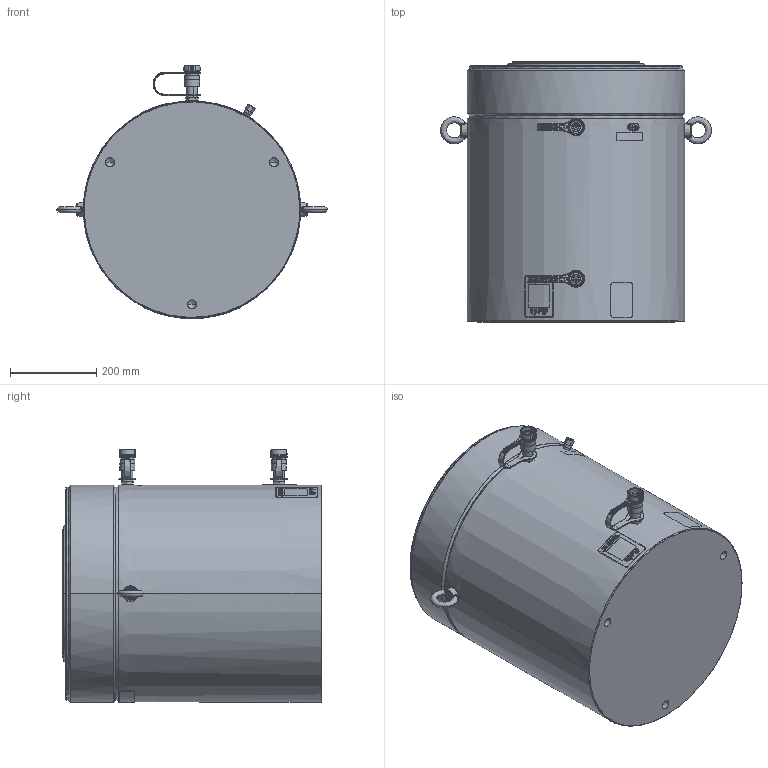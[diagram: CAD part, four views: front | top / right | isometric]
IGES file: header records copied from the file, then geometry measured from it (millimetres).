
Start section:  PTC IGES file: hcr80010.igs
Global section: file name: hcr80010.igs; native system: Creo Parametric by PTC Inc.; preprocessor: 2015290; author: Akhilesh.Subrahmanya; organization: Unknown; date: 20170629.132153; units: millimetre
Bounding box: 628.92 x 604 x 587.97 mm (x, y, z)
Surface area: 1882154.8 mm2 (no closed solid volume)
Topology: 0 solids, 0 shells, 696 faces, 6618 edges, 6606 vertices
Faces by surface type: revolution 450, bspline 240, extrusion 6
